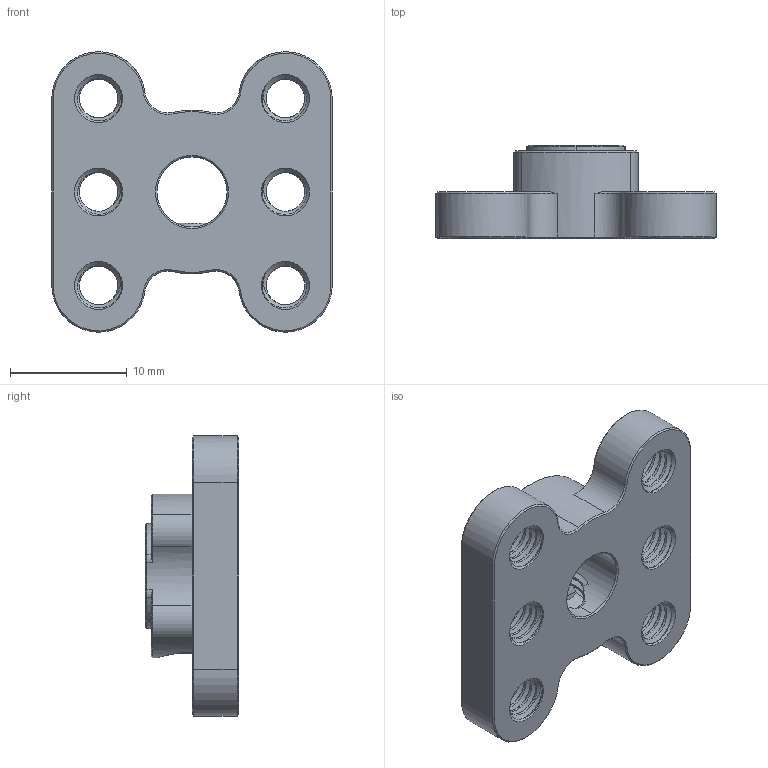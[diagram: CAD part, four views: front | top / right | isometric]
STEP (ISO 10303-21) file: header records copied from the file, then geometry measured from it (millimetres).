
FILE_DESCRIPTION (( 'STEP AP203' ), '1' );
FILE_NAME ('1314-0016-0006 assembly.STEP', '2022-12-08T19:17:58', ( '' ), ( '' ), 'SwSTEP 2.0', 'SolidWorks 2016', '' );
FILE_SCHEMA (( 'CONFIG_CONTROL_DESIGN' ));
Length unit declared in the file: millimetre
Products named in the file (3): 1314-0016-0006; 2806-0005-0004_91390A117; 1314-0016-0006 assembly
Assembly tree (2 placements, depth 2):
  1314-0016-0006 assembly
    1314-0016-0006
    2806-0005-0004_91390A117
Bounding box: 24 x 8 x 24 mm (x, y, z)
Volume: 1831.1 mm3; surface area: 2027.8 mm2
Topology: 2 solids, 2 shells, 339 faces, 945 edges, 606 vertices
Faces by surface type: cylinder 200, cone 91, plane 25, bspline 23
Entity records: 29796 total; most frequent: CARTESIAN_POINT 21965, ORIENTED_EDGE 1882, DIRECTION 1324, EDGE_CURVE 941, VERTEX_POINT 606, AXIS2_PLACEMENT_3D 513, EDGE_LOOP 355, FACE_OUTER_BOUND 339
